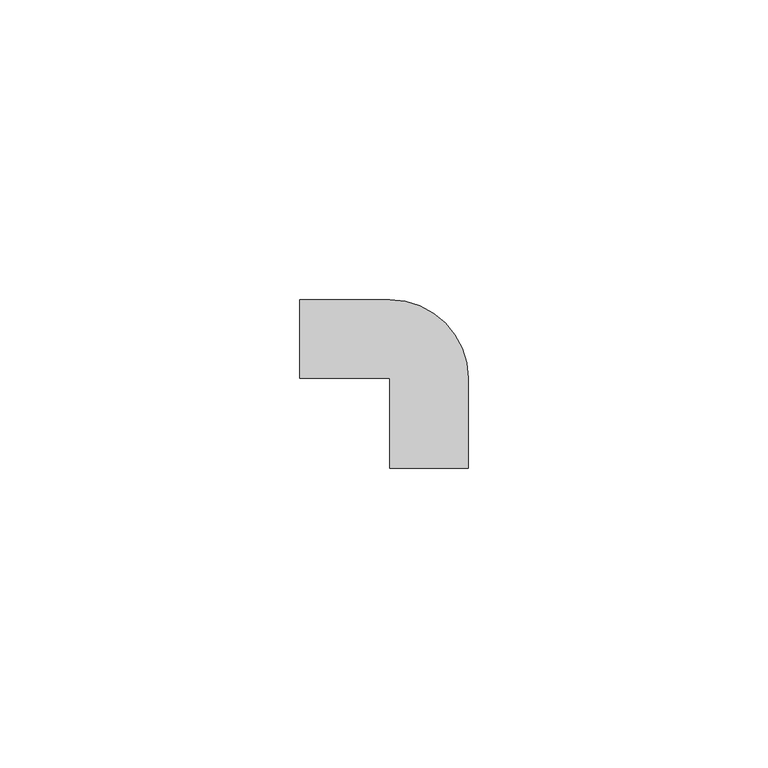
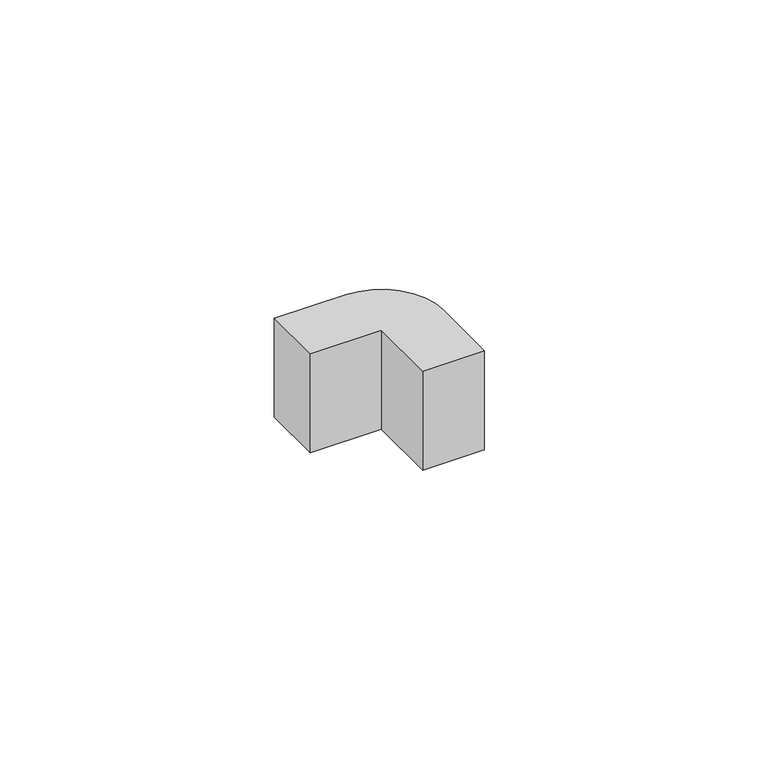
"""IFC4 building model written with IfcOpenShell, lengths in millimetres: proxy geometry, Внешний_угол_КМН : Внешний угол КМН 20х10."""

import ifcopenshell
import ifcopenshell.guid

model = None  # the IFC model being written
_history = None  # IfcOwnerHistory: only IFC2X3 demands one
_inside = {}  # id of a spatial element -> (the spatial element, [elements in it])
_under = {}  # id of a project, library or spatial element -> (it, [spatial elements below it])
_declared = {}  # id of a project -> (the project, [libraries it declares])
_typed = {}  # id of a type object -> (the type object, [elements of that type])
_made_of = {}  # id of a material, layer set ... -> (it, [elements and type objects made of it])


def new_model(schema):
    """Start an empty IFC model of exactly this schema.

    Asked for "IFC4X3", IfcOpenShell would pick the latest addendum, in which some entities
    have other attributes; the version numbers below select the first issue.
    IFC2X3 requires an IfcOwnerHistory on every rooted entity: one is made here for all.
    """
    global model, _history
    if schema == "IFC4X3":
        model = ifcopenshell.file(schema_version=(4, 3, 0, 0))
    else:
        model = ifcopenshell.file(schema=schema)
    _inside.clear()
    _under.clear()
    _declared.clear()
    _typed.clear()
    _made_of.clear()
    _history = None
    if model.schema == "IFC2X3":
        org = make("IfcOrganization", Name="unknown")
        user = make(
            "IfcPersonAndOrganization",
            ThePerson=make("IfcPerson", FamilyName="unknown"),
            TheOrganization=org,
        )
        app = make(
            "IfcApplication",
            ApplicationDeveloper=org,
            Version="unknown",
            ApplicationFullName="unknown",
            ApplicationIdentifier="unknown",
        )
        _history = make(
            "IfcOwnerHistory",
            OwningUser=user,
            OwningApplication=app,
            ChangeAction="ADDED",
            CreationDate=0,
        )
    return model


def make(cls, **values):
    """One entity of the class cls with the attributes given. An attribute that is None is left unset."""
    return model.create_entity(
        cls, **{name: value for name, value in values.items() if value is not None}
    )


def rooted(cls, **values):
    """An entity with a GlobalId (a new one), such as an element, a storey or a relation."""
    return make(cls, GlobalId=ifcopenshell.guid.new(), OwnerHistory=_history, **values)


def si_unit(unit_type, name, prefix=None):
    """IfcSIUnit, for example si_unit("LENGTHUNIT", "METRE", prefix="MILLI")."""
    return make("IfcSIUnit", UnitType=unit_type, Prefix=prefix, Name=name)


def assignment(units):
    """IfcUnitAssignment: the units of a project."""
    return None if units is None else make("IfcUnitAssignment", Units=units)


def point(xyz):
    """IfcCartesianPoint."""
    return None if xyz is None else make("IfcCartesianPoint", Coordinates=xyz)


def direction(xyz):
    """IfcDirection."""
    return None if xyz is None else make("IfcDirection", DirectionRatios=xyz)


def frame(location, z_axis=None, x_axis=None):
    """IfcAxis2Placement3D, a coordinate frame: its origin and axes. An axis left out is left unset."""
    return make(
        "IfcAxis2Placement3D",
        Location=point(location),
        Axis=direction(z_axis),
        RefDirection=direction(x_axis),
    )


def frame_2d(location, x_axis=None):
    """IfcAxis2Placement2D, a coordinate frame in the plane: its origin and x axis."""
    return make(
        "IfcAxis2Placement2D", Location=point(location), RefDirection=direction(x_axis)
    )


def origin():
    """The frame at (0, 0, 0) with its axes left unset."""
    return frame((0.0, 0.0, 0.0))


def origin_with_axes():
    """The frame at (0, 0, 0) with the z axis (0, 0, 1) and the x axis (1, 0, 0) written out."""
    return frame((0.0, 0.0, 0.0), z_axis=(0.0, 0.0, 1.0), x_axis=(1.0, 0.0, 0.0))


def origin_2d():
    """The frame at (0, 0) in the plane with its x axis left unset."""
    return frame_2d((0.0, 0.0))


def place(relative_to, where):
    """IfcLocalPlacement: puts the frame where relative to a parent placement (None: the world)."""
    return make(
        "IfcLocalPlacement", PlacementRelTo=relative_to, RelativePlacement=where
    )


def context(
    kind, dimensions, precision=None, world=None, true_north=None, identifier=None
):
    """IfcGeometricRepresentationContext, for example the 3D "Model" context."""
    return make(
        "IfcGeometricRepresentationContext",
        ContextIdentifier=identifier,
        ContextType=kind,
        CoordinateSpaceDimension=dimensions,
        Precision=precision,
        WorldCoordinateSystem=world,
        TrueNorth=true_north,
    )


def project(units=None, contexts=None):
    """IfcProject with its units and contexts."""
    return rooted(
        "IfcProject",
        Name="project",
        RepresentationContexts=contexts,
        UnitsInContext=assignment(units),
    )


def spatial(cls, under=None, at=None, **own):
    """A site, building, storey or space (cls), placed at a placement, below another one or the project."""
    s = rooted(cls, ObjectPlacement=at, **own)
    if under is not None:
        _under.setdefault(under.id(), (under, []))[1].append(s)
    return s


def polyline(points):
    """IfcPolyline through the points."""
    return make("IfcPolyline", Points=[point(p) for p in points])


def circle_curve(where, radius):
    """IfcCircle in the frame where."""
    return make("IfcCircle", Position=where, Radius=radius)


def trimmed(basis, trim1, trim2, sense, master):
    """IfcTrimmedCurve: the piece of a basis curve between two trims."""
    return make(
        "IfcTrimmedCurve",
        BasisCurve=basis,
        Trim1=trim1,
        Trim2=trim2,
        SenseAgreement=sense,
        MasterRepresentation=master,
    )


def segment(curve, same_sense, transition):
    """IfcCompositeCurveSegment."""
    return make(
        "IfcCompositeCurveSegment",
        Transition=transition,
        SameSense=same_sense,
        ParentCurve=curve,
    )


def composite_curve(segments, self_intersect=None):
    """IfcCompositeCurve: segments joined end to end."""
    return make("IfcCompositeCurve", Segments=segments, SelfIntersect=self_intersect)


def outline(outer, holes=None, kind="AREA"):
    """IfcArbitraryClosedProfileDef: a profile drawn as a closed curve; with holes, ...WithVoids."""
    if holes is None:
        return make("IfcArbitraryClosedProfileDef", ProfileType=kind, OuterCurve=outer)
    return make(
        "IfcArbitraryProfileDefWithVoids",
        ProfileType=kind,
        OuterCurve=outer,
        InnerCurves=holes,
    )


def extrude(swept, where, along, depth):
    """IfcExtrudedAreaSolid: the profile swept, set in the frame where, extruded along a direction by depth."""
    return make(
        "IfcExtrudedAreaSolid",
        SweptArea=swept,
        Position=where,
        ExtrudedDirection=direction(along),
        Depth=depth,
    )


def shape(context_of_items, identifier, shape_type, items):
    """IfcShapeRepresentation: the items that make up one representation, for example the "Body"."""
    return make(
        "IfcShapeRepresentation",
        ContextOfItems=context_of_items,
        RepresentationIdentifier=identifier,
        RepresentationType=shape_type,
        Items=items,
    )


def source(mapping_origin, context_of_items, identifier, shape_type, items):
    """IfcRepresentationMap: a shape defined once, which mapped items show again and again."""
    return make(
        "IfcRepresentationMap",
        MappingOrigin=mapping_origin,
        MappedRepresentation=shape(context_of_items, identifier, shape_type, items),
    )


def transform(
    local_origin,
    x_axis=None,
    y_axis=None,
    z_axis=None,
    scale=None,
    scale2=None,
    scale3=None,
    uniform=True,
):
    """IfcCartesianTransformationOperator3D, or its non-uniform kind. x_axis, y_axis, z_axis: its Axis1, 2, 3."""
    if uniform:
        return make(
            "IfcCartesianTransformationOperator3D",
            Axis1=direction(x_axis),
            Axis2=direction(y_axis),
            LocalOrigin=point(local_origin),
            Scale=scale,
            Axis3=direction(z_axis),
        )
    return make(
        "IfcCartesianTransformationOperator3DnonUniform",
        Axis1=direction(x_axis),
        Axis2=direction(y_axis),
        LocalOrigin=point(local_origin),
        Scale=scale,
        Axis3=direction(z_axis),
        Scale2=scale2,
        Scale3=scale3,
    )


def mapped(mapping_source, mapping_target):
    """IfcMappedItem: shows the shape of a source again, moved by a transform."""
    return make(
        "IfcMappedItem", MappingSource=mapping_source, MappingTarget=mapping_target
    )


def made_of(thing, what):
    """Note that an element or type object is made of a material, layer set ...; save() writes the relation."""
    if what is not None:
        _made_of.setdefault(what.id(), (what, []))[1].append(thing)
    return thing


def element(
    cls,
    number,
    at=None,
    inside=None,
    cuts=None,
    type_object=None,
    material=None,
    context=None,
    identifier="Body",
    shape_type=None,
    held_by="IfcProductDefinitionShape",
    body=None,
    shapes=None,
    **own,
):
    """One element of the class cls, such as IfcWall. Its Tag is "e" and its number.

    at: its placement. inside: the storey or other place that contains it. cuts: it is an
    opening in that element (IfcRelVoidsElement). A single representation is given by context,
    identifier, shape_type and body (its items); several are given by shapes. held_by: the class
    of the entity that holds the representations. save() writes the other relations.
    """
    e = rooted(cls, Tag="e%d" % number, ObjectPlacement=at, **own)
    if body is not None:
        shapes = [shape(context, identifier, shape_type, body)]
    if shapes is not None:
        e.Representation = make(held_by, Representations=shapes)
    if inside is not None:
        _inside.setdefault(inside.id(), (inside, []))[1].append(e)
    if cuts is not None:
        rooted(
            "IfcRelVoidsElement", RelatingBuildingElement=cuts, RelatedOpeningElement=e
        )
    if type_object is not None:
        _typed.setdefault(type_object.id(), (type_object, []))[1].append(e)
    return made_of(e, material)


def aggregate(whole, parts):
    """IfcRelAggregates: a whole, such as a stair, and the parts it consists of."""
    return rooted("IfcRelAggregates", RelatingObject=whole, RelatedObjects=parts)


def save(model, path):
    """Write the relations noted so far, then the file.

    IfcRelAggregates (storeys below a building ...), IfcRelContainedInSpatialStructure (elements
    in a storey), IfcRelDefinesByType, IfcRelAssociatesMaterial and IfcRelDeclares: one each for
    every whole, place, type object, material and project.
    """
    for whole, parts in _under.values():
        aggregate(whole, parts)
    for where, things in _inside.values():
        rooted(
            "IfcRelContainedInSpatialStructure",
            RelatedElements=things,
            RelatingStructure=where,
        )
    for kind, things in _typed.values():
        rooted("IfcRelDefinesByType", RelatedObjects=things, RelatingType=kind)
    for what, things in _made_of.values():
        rooted("IfcRelAssociatesMaterial", RelatedObjects=things, RelatingMaterial=what)
    for by, libraries in _declared.values():
        rooted("IfcRelDeclares", RelatingContext=by, RelatedDefinitions=libraries)
    model.write(path)


def generic_models_832ea7fc(model_context):
    return source(origin(), model_context, "Body", "SweptSolid", [
        extrude(outline(composite_curve([segment(polyline([(-15.0, 0.0), (-15.0, 13.037256), (0.0, 13.037256)]), True, "CONTINUOUS"), segment(trimmed(circle_curve(origin_2d(), 13.037256), [point((0.0, 13.037256))], [point((13.037256, 0.0))], False, "CARTESIAN"), True, "CONTINUOUS"), segment(polyline([(13.037256, 0.0), (13.037256, -15.0), (0.0, -15.0), (0.0, 0.0), (-15.0, 0.0)]), True, "CONTINUOUS")], self_intersect=False)), origin_with_axes(), (0.0, 0.0, 1.0), 21.9770043),
    ])


if __name__ == "__main__":
    model = new_model("IFC4")
    model_context = context("Model", 3, world=origin())
    ifc_project = project(units=[si_unit("LENGTHUNIT", "METRE", prefix="MILLI")], contexts=[model_context])
    site = spatial("IfcSite", under=ifc_project)
    building = spatial("IfcBuilding", under=site)
    placement = place(None, origin())
    generic_models_shape = generic_models_832ea7fc(model_context)
    element("IfcBuildingElementProxy", 1, Name="Внешний_угол_КМН : Внешний угол КМН 20х10", ObjectType="Внешний_угол_КМН : Внешний угол КМН 20х10", at=placement, inside=building, context=model_context, shape_type="MappedRepresentation", body=[
        mapped(generic_models_shape, transform((0.0, 0.0, 0.0), x_axis=(1.0, 0.0, 0.0), y_axis=(0.0, 1.0, 0.0), z_axis=(0.0, 0.0, 1.0))),
    ])
    save(model, "model.ifc")
